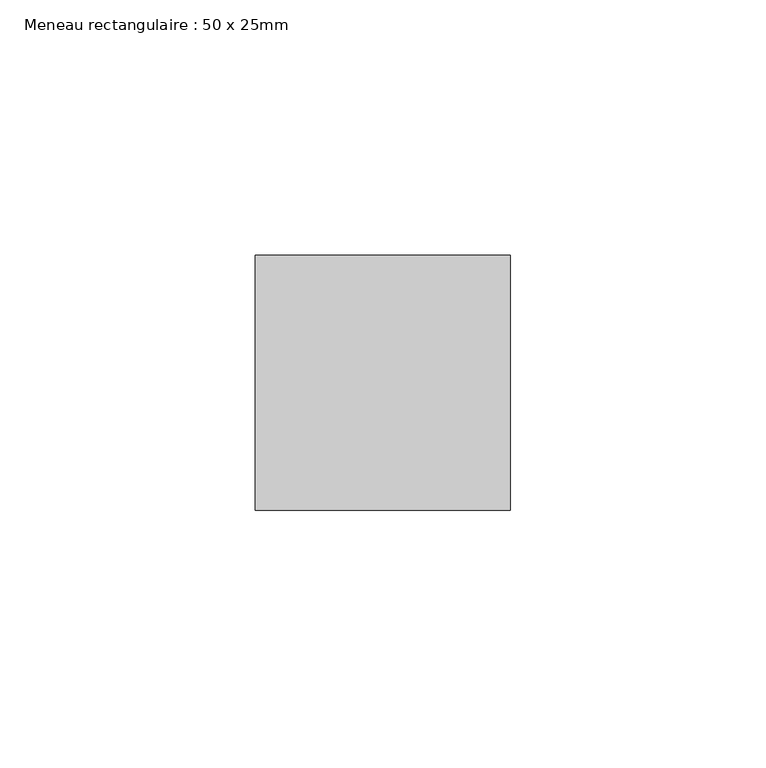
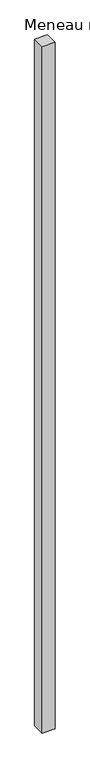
"""IFC4 building model written with IfcOpenShell, lengths in millimetres: member geometry, Meneau rectangulaire : 50 x 25mm."""

from ifc_helpers import new_model, si_unit, frame, origin, place, context, project, spatial, polyline, outline, extrude, source, transform, mapped, element, save


def meneau_rectangulaire_50_x_25mm_c7c7f950(model_context):
    return source(origin(), model_context, "Body", "SweptSolid", [
        extrude(outline(polyline([(0.0, 0.0), (0.0, -50.0), (-50.0, -50.0), (-50.0, 0.0), (0.0, 0.0)])), frame((0.0, 0.0, -2805.0), z_axis=(0.0, 0.0, 1.0), x_axis=(1.0, 0.0, 0.0)), (0.0, 0.0, 1.0), 2805.0),
    ])


if __name__ == "__main__":
    model = new_model("IFC4")
    model_context = context("Model", 3, world=origin())
    ifc_project = project(units=[si_unit("LENGTHUNIT", "METRE", prefix="MILLI")], contexts=[model_context])
    site = spatial("IfcSite", under=ifc_project)
    building = spatial("IfcBuilding", under=site)
    placement = place(None, origin())
    meneau_rectangulaire_50_x_25mm_shape = meneau_rectangulaire_50_x_25mm_c7c7f950(model_context)
    element("IfcMember", 1, ObjectType="Meneau rectangulaire : 50 x 25mm", at=placement, inside=building, context=model_context, shape_type="MappedRepresentation", body=[
        mapped(meneau_rectangulaire_50_x_25mm_shape, transform((0.0, 0.0, 0.0), x_axis=(1.0, 0.0, 0.0), y_axis=(0.0, 1.0, 0.0), z_axis=(0.0, 0.0, 1.0))),
    ])
    save(model, "model.ifc")
